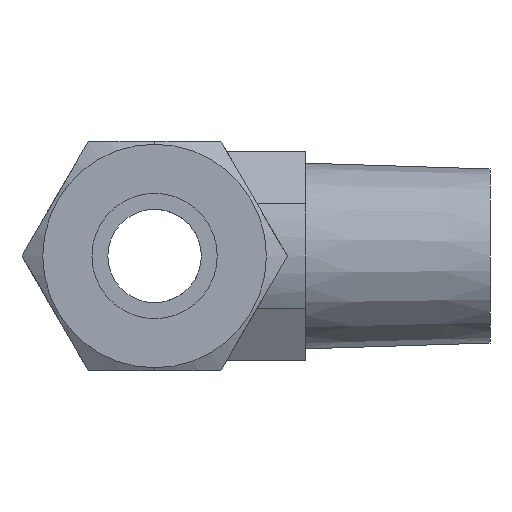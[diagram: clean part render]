
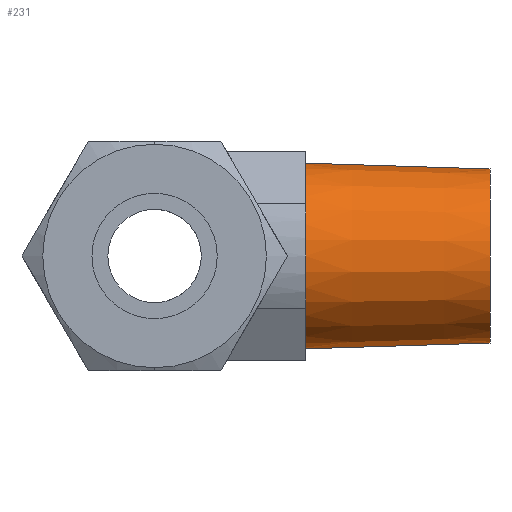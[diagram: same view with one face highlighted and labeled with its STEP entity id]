
A CAD part, left-side view. The second image highlights one B-rep face of the part: STEP entity #231.
In plain terms, the highlighted conical face has half-angle 1.8 degrees and reference radius 6.8 mm.
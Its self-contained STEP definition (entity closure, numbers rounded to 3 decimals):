
#231 = ADVANCED_FACE ( 'NONE', ( #1214 ), #1212, .T. ) ;
#232 = EDGE_LOOP ( 'NONE', ( #235, #239, #247, #250 ) ) ;
#235 = ORIENTED_EDGE ( 'NONE', *, *, #236, .F. ) ;
#236 = EDGE_CURVE ( 'NONE', #237, #238, #1267, .T. ) ;
#237 = VERTEX_POINT ( 'NONE', #1262 ) ;
#238 = VERTEX_POINT ( 'NONE', #1261 ) ;
#239 = ORIENTED_EDGE ( 'NONE', *, *, #240, .T. ) ;
#240 = EDGE_CURVE ( 'NONE', #237, #241, #1260, .T. ) ;
#241 = VERTEX_POINT ( 'NONE', #1256 ) ;
#247 = ORIENTED_EDGE ( 'NONE', *, *, #248, .T. ) ;
#248 = EDGE_CURVE ( 'NONE', #241, #249, #1244, .T. ) ;
#249 = VERTEX_POINT ( 'NONE', #1239 ) ;
#250 = ORIENTED_EDGE ( 'NONE', *, *, #251, .F. ) ;
#251 = EDGE_CURVE ( 'NONE', #238, #249, #1238, .T. ) ;
#1208 = DIRECTION ( 'NONE',  ( 0., 0., -1. ) ) ;
#1209 = DIRECTION ( 'NONE',  ( 0., 1., 0. ) ) ;
#1210 = CARTESIAN_POINT ( 'NONE',  ( 0., -19.71, 0. ) ) ;
#1211 = AXIS2_PLACEMENT_3D ( 'NONE', #1210, #1209, #1208 ) ;
#1212 = CONICAL_SURFACE ( 'NONE', #1211, 6.8, 0.031 ) ;
#1214 = FACE_OUTER_BOUND ( 'NONE', #232, .T. ) ;
#1235 = DIRECTION ( 'NONE',  ( 0., 1., -0.031 ) ) ;
#1236 = VECTOR ( 'NONE', #1235, 1000. ) ;
#1237 = CARTESIAN_POINT ( 'NONE',  ( 0., -19.71, -6.8 ) ) ;
#1238 = LINE ( 'NONE', #1237, #1236 ) ;
#1239 = CARTESIAN_POINT ( 'NONE',  ( 0., -11.5, -7.058 ) ) ;
#1240 = DIRECTION ( 'NONE',  ( 0., 0., 1. ) ) ;
#1241 = DIRECTION ( 'NONE',  ( 0., -1., 0. ) ) ;
#1242 = CARTESIAN_POINT ( 'NONE',  ( 0., -11.5, 0. ) ) ;
#1243 = AXIS2_PLACEMENT_3D ( 'NONE', #1242, #1241, #1240 ) ;
#1244 = CIRCLE ( 'NONE', #1243, 7.058 ) ;
#1256 = CARTESIAN_POINT ( 'NONE',  ( 0., -11.5, 7.058 ) ) ;
#1257 = DIRECTION ( 'NONE',  ( 0., 1., 0.031 ) ) ;
#1258 = VECTOR ( 'NONE', #1257, 1000. ) ;
#1259 = CARTESIAN_POINT ( 'NONE',  ( 0., -19.71, 6.8 ) ) ;
#1260 = LINE ( 'NONE', #1259, #1258 ) ;
#1261 = CARTESIAN_POINT ( 'NONE',  ( 0., -25.5, -6.618 ) ) ;
#1262 = CARTESIAN_POINT ( 'NONE',  ( 0., -25.5, 6.618 ) ) ;
#1263 = DIRECTION ( 'NONE',  ( 0., 0., -1. ) ) ;
#1264 = DIRECTION ( 'NONE',  ( 0., -1., 0. ) ) ;
#1265 = CARTESIAN_POINT ( 'NONE',  ( 0., -25.5, 0. ) ) ;
#1266 = AXIS2_PLACEMENT_3D ( 'NONE', #1265, #1264, #1263 ) ;
#1267 = CIRCLE ( 'NONE', #1266, 6.618 ) ;
